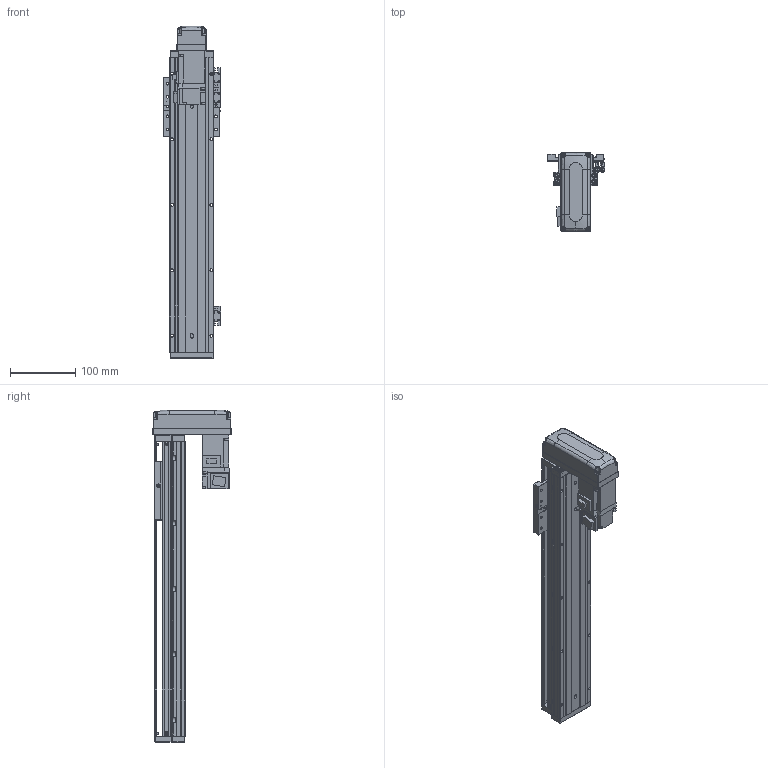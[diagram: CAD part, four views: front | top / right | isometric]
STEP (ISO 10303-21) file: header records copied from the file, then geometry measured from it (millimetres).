
FILE_DESCRIPTION (( 'STEP AP203' ), '1' );
FILE_NAME ('KTHAL60-300-BM-M10-C4L.step', '2022-03-19T08:40:47', ( '微软用户' ), ( '微软中国' ), 'SwSTEP 2.0', 'SolidWorks 2020', '' );
FILE_SCHEMA (( 'CONFIG_CONTROL_DESIGN' ));
Length unit declared in the file: millimetre
Products named in the file (18): KTHA60-001_450; CTHA60-017; CTHA60-015-2_CTHA60-015-2; KTHLA60-002; CTHA60-021; CTHA60-033; KTHA60-004; GBT 70.1-M4×16; GBT 70.1-M3×15; KTHA60-005; GBT77-2000M3-3; KTHAL60-300-BM-M10-C4L; GB¨uT 70.2-M3¡Á5_M3¡Á6; GBT 70.1-M3℅6; GBT 70.3-M3℅6; CTHA60-016; EE_SX911P_R; HG-KR13（三菱）
Assembly tree (51 placements, depth 2):
  KTHAL60-300-BM-M10-C4L
    KTHA60-001_450
    KTHLA60-002
    KTHA60-004
    KTHA60-005
    GB¨uT 70.2-M3¡Á5_M3¡Á6  x5
    GBT 70.3-M3℅6  x4
    EE_SX911P_R  x3
    CTHA60-017  x3
    CTHA60-021  x2
    GBT 70.1-M4×16  x10
    GBT77-2000M3-3  x6
    GBT 70.1-M3℅6  x6
    CTHA60-016
    HG-KR13（三菱）
    CTHA60-015-2_CTHA60-015-2
    CTHA60-033
    GBT 70.1-M3×15  x4
Bounding box: 87.82 x 120 x 507 mm (x, y, z)
Volume: 1207156.6 mm3; surface area: 297290.6 mm2
Topology: 54 solids, 54 shells, 2255 faces, 5331 edges, 3269 vertices
Faces by surface type: plane 1288, cylinder 547, cone 282, torus 98, bspline 26, sphere 14
Entity records: 38701 total; most frequent: CARTESIAN_POINT 7336, DIRECTION 6023, ORIENTED_EDGE 5806, EDGE_CURVE 2903, AXIS2_PLACEMENT_3D 2023, VECTOR 1977, LINE 1977, VERTEX_POINT 1818
